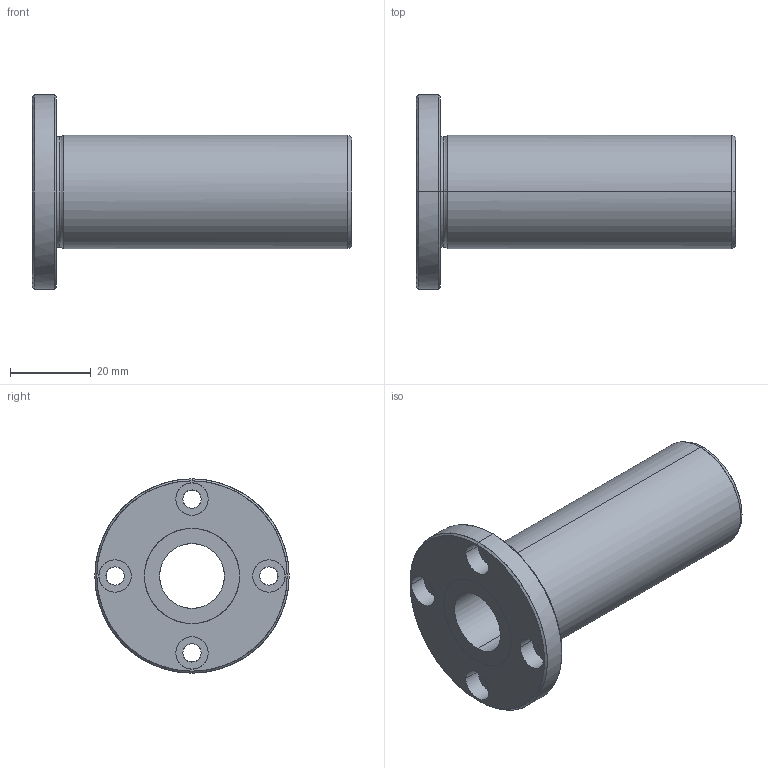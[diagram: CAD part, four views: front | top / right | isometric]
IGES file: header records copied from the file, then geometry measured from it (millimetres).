
Global section: file name: No Iges File Name specified; native system: AutoDesk Inventor R10; preprocessor: AutoDesk Inventor Iges Exporter R10; author: No Author specified; organization: No Organization specified; date: 20101216.153826; units: millimetre
Bounding box: 79 x 48 x 48 mm (x, y, z)
Surface area: 14824.9 mm2 (no closed solid volume)
Topology: 0 solids, 0 shells, 45 faces, 320 edges, 320 vertices
Faces by surface type: bspline 45
